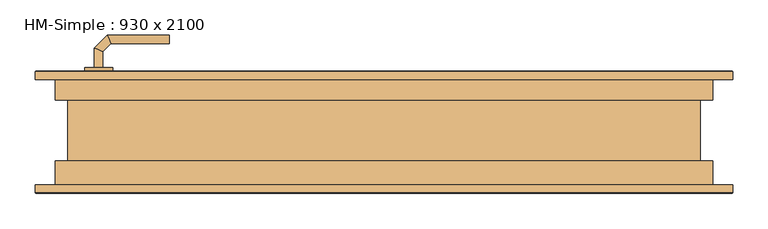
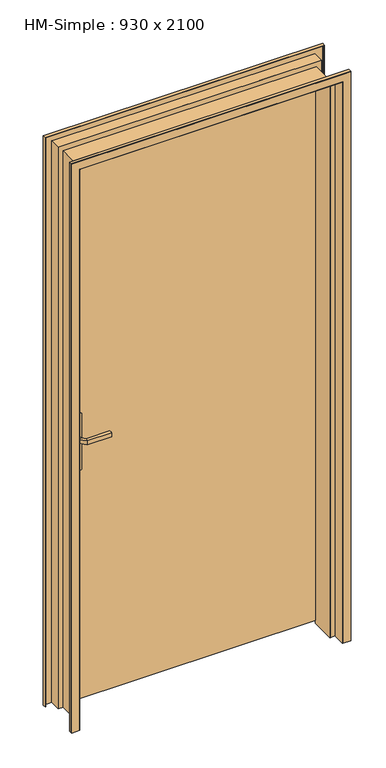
"""IFC4 building model written with IfcOpenShell, lengths in millimetres: door geometry, HM-Simple : 930 x 2100."""

from ifc_helpers import new_model, si_unit, point, frame, frame_2d, origin, place, context, project, spatial, polyline, circle_curve, ellipse_curve, trimmed, segment, composite_curve, outline, extrude, faceted_brep, source, transform, mapped, element, save
from ifc_brep_helpers import plane_surface, cylinder_surface, advanced_brep


def hm_simple_930_x_2100_480bb5af(model_context):
    return source(origin(), model_context, "Body", "SolidModel", [
        advanced_brep(
        [(-399.0, 42.0, 993.0), (-411.0, 42.0, 993.0), (-411.0, 42.0, 1007.0), (-399.0, 42.0, 1007.0), (-399.0, 19.5147955, 1007.0), (-399.0, 19.5147955, 993.0), (-411.0, 14.5442327, 1007.0), (-411.0, 14.5442327, 993.0), (-387.5147186, 8.0295141, 1007.0), (-387.5147186, 8.0295141, 993.0), (-392.4852814, -3.9704859, 1007.0), (-392.4852814, -3.9704859, 993.0), (-304.9542163, 8.0295141, 993.0), (-304.9542163, 8.0295141, 1007.0), (-304.9542163, -3.9704859, 1007.0), (-304.9542163, -3.9704859, 993.0)],
        [
            (0, 1, circle_curve(frame((-405.0, 42.0, 1013.0457722), z_axis=(0.0, 1.0, 0.0), x_axis=(-1.0, 0.0, 0.0)), 20.9244589)),
            (1, 2),
            (2, 3, circle_curve(frame((-405.0, 42.0, 986.9542278), z_axis=(0.0, 1.0, 0.0), x_axis=(-1.0, 0.0, 0.0)), 20.9244589)),
            (3, 0),
            (3, 4),
            (4, 5),
            (5, 0),
            (2, 6),
            (6, 4, ellipse_curve(frame((-405.0, 17.0295141, 986.9542278), z_axis=(-0.3826834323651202, 0.9238795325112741, 0.0), x_axis=(0.9238795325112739, 0.3826834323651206, 0.0)), 22.6484711, 20.9244589)),
            (1, 7),
            (7, 6),
            (5, 7, ellipse_curve(frame((-405.0, 17.0295141, 1013.0457722), z_axis=(-0.3826834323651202, 0.9238795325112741, 0.0), x_axis=(0.9238795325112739, 0.3826834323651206, 0.0)), 22.6484711, 20.9244589)),
            (4, 8),
            (8, 9),
            (9, 5),
            (6, 10),
            (10, 8, ellipse_curve(frame((-390.0, 2.0295141, 986.9542278), z_axis=(-0.9238795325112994, 0.3826834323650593, 0.0), x_axis=(0.3826834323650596, 0.9238795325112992, 0.0)), 22.6484711, 20.9244589)),
            (7, 11),
            (11, 10),
            (9, 11, ellipse_curve(frame((-390.0, 2.0295141, 1013.0457722), z_axis=(-0.9238795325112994, 0.3826834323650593, 0.0), x_axis=(0.3826834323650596, 0.9238795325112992, 0.0)), 22.6484711, 20.9244589)),
            (12, 13),
            (13, 14, circle_curve(frame((-304.9542163, 2.0295141, 986.9542278), z_axis=(1.0, 0.0, 0.0), x_axis=(0.0, -1.0, 0.0)), 20.9244589)),
            (14, 15),
            (15, 12, circle_curve(frame((-304.9542163, 2.0295141, 1013.0457722), z_axis=(1.0, 0.0, 0.0), x_axis=(0.0, -1.0, 0.0)), 20.9244589)),
            (8, 13),
            (12, 9),
            (10, 14),
            (11, 15),
        ],
        [
            plane_surface(frame((-414.2195445, 42.0, 1000.0), z_axis=(0.0, 1.0, 0.0), x_axis=(0.0, 0.0, 1.0))),
            plane_surface(frame((-399.0, 42.0, 993.0), z_axis=(1.0, 0.0, 0.0), x_axis=(0.0, -1.0, 0.0))),
            cylinder_surface(frame((-405.0, 42.0, 986.9542278), z_axis=(0.0, 1.0, 0.0), x_axis=(-1.0, 0.0, 0.0)), 20.9244589),
            plane_surface(frame((-411.0, 42.0, 1007.0), z_axis=(-1.0, 0.0, 0.0), x_axis=(0.0, -1.0, 0.0))),
            cylinder_surface(frame((-405.0, 42.0, 1013.0457722), z_axis=(0.0, 1.0, 0.0), x_axis=(-1.0, 0.0, 0.0)), 20.9244589),
            plane_surface(frame((-399.0, 19.5147955, 993.0), z_axis=(0.7071067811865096, 0.7071067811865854, 0.0), x_axis=(0.7071067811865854, -0.7071067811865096, 0.0))),
            cylinder_surface(frame((-405.0, 17.0295141, 986.9542278), z_axis=(-0.7071067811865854, 0.7071067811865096, 0.0), x_axis=(-0.7071067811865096, -0.7071067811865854, 0.0)), 20.9244589),
            plane_surface(frame((-411.0, 14.5442327, 1007.0), z_axis=(-0.7071067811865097, -0.7071067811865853, 0.0), x_axis=(0.7071067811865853, -0.7071067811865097, 0.0))),
            cylinder_surface(frame((-405.0, 17.0295141, 1013.0457722), z_axis=(-0.7071067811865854, 0.7071067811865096, 0.0), x_axis=(-0.7071067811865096, -0.7071067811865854, 0.0)), 20.9244589),
            plane_surface(frame((-304.9542163, 2.0295141, 990.7804555), z_axis=(1.0, 0.0, 0.0), x_axis=(0.0, -1.0, 0.0))),
            plane_surface(frame((-387.5147186, 8.0295141, 993.0), z_axis=(0.0, 1.0, 0.0), x_axis=(1.0, 0.0, 0.0))),
            cylinder_surface(frame((-390.0, 2.0295141, 986.9542278), z_axis=(-1.0, 0.0, 0.0), x_axis=(0.0, -1.0, 0.0)), 20.9244589),
            plane_surface(frame((-392.4852814, -3.9704859, 1007.0), z_axis=(0.0, -1.0, 0.0), x_axis=(1.0, 0.0, 0.0))),
            cylinder_surface(frame((-390.0, 2.0295141, 1013.0457722), z_axis=(-1.0, 0.0, 0.0), x_axis=(0.0, -1.0, 0.0)), 20.9244589),
        ],
        [
            (0, [[1, 2, 3, 4]]),
            (1, [[5, 6, 7, -4]]),
            (2, [[8, 9, -5, -3]]),
            (3, [[10, 11, -8, -2]]),
            (4, [[-7, 12, -10, -1]]),
            (5, [[13, 14, 15, -6]]),
            (6, [[16, 17, -13, -9]]),
            (7, [[18, 19, -16, -11]]),
            (8, [[-15, 20, -18, -12]]),
            (9, [[21, 22, 23, 24]]),
            (10, [[25, -21, 26, -14]]),
            (11, [[27, -22, -25, -17]]),
            (12, [[28, -23, -27, -19]]),
            (13, [[-26, -24, -28, -20]]),
        ],
    ),
        advanced_brep(
        [(-411.0, 92.0, 1007.0), (-411.0, 92.0, 993.0), (-399.0, 92.0, 993.0), (-399.0, 92.0, 1007.0), (-399.0, 114.680388, 1007.0), (-411.0, 119.6509507, 1007.0), (-399.0, 114.680388, 993.0), (-411.0, 119.6509507, 993.0), (-387.6522273, 126.0281607, 1007.0), (-392.62279, 138.0281607, 1007.0), (-387.6522273, 126.0281607, 993.0), (-392.62279, 138.0281607, 993.0), (-304.9813594, 138.0281607, 1007.0), (-304.9813594, 126.0281607, 1007.0), (-304.9813594, 126.0281607, 993.0), (-304.9813594, 138.0281607, 993.0)],
        [
            (0, 1),
            (1, 2, circle_curve(frame((-405.0, 92.0, 1013.0457722), z_axis=(0.0, -1.0, 0.0), x_axis=(1.0, 0.0, 0.0)), 20.9244589)),
            (2, 3),
            (3, 0, circle_curve(frame((-405.0, 92.0, 986.9542278), z_axis=(0.0, -1.0, 0.0), x_axis=(1.0, 0.0, 0.0)), 20.9244589)),
            (3, 4),
            (4, 5, ellipse_curve(frame((-405.0, 117.1656693, 986.9542278), z_axis=(-0.3826834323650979, -0.9238795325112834, 0.0), x_axis=(0.9238795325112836, -0.3826834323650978, 0.0)), 22.6484711, 20.9244589)),
            (5, 0),
            (2, 6),
            (6, 4),
            (1, 7),
            (7, 6, ellipse_curve(frame((-405.0, 117.1656693, 1013.0457722), z_axis=(-0.3826834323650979, -0.9238795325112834, 0.0), x_axis=(0.9238795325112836, -0.3826834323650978, 0.0)), 22.6484711, 20.9244589)),
            (5, 7),
            (4, 8),
            (8, 9, ellipse_curve(frame((-390.1375086, 132.0281607, 986.9542278), z_axis=(-0.92387953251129, -0.3826834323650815, 0.0), x_axis=(0.3826834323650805, -0.9238795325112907, 0.0)), 22.6484711, 20.9244589)),
            (9, 5),
            (6, 10),
            (10, 8),
            (7, 11),
            (11, 10, ellipse_curve(frame((-390.1375086, 132.0281607, 1013.0457722), z_axis=(-0.92387953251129, -0.3826834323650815, 0.0), x_axis=(0.3826834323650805, -0.9238795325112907, 0.0)), 22.6484711, 20.9244589)),
            (9, 11),
            (12, 13, circle_curve(frame((-304.9813594, 132.0281607, 986.9542278), z_axis=(1.0, 0.0, 0.0), x_axis=(0.0, -1.0, 0.0)), 20.9244589)),
            (13, 14),
            (14, 15, circle_curve(frame((-304.9813594, 132.0281607, 1013.0457722), z_axis=(1.0, 0.0, 0.0), x_axis=(0.0, -1.0, 0.0)), 20.9244589)),
            (15, 12),
            (8, 13),
            (12, 9),
            (10, 14),
            (11, 15),
        ],
        [
            plane_surface(frame((-414.2195445, 92.0, 1000.0), z_axis=(0.0, -1.0, 0.0), x_axis=(0.0, 0.0, -1.0))),
            cylinder_surface(frame((-405.0, 92.0, 986.9542278), z_axis=(0.0, -1.0, 0.0), x_axis=(1.0, 0.0, 0.0)), 20.9244589),
            plane_surface(frame((-399.0, 92.0, 1007.0), z_axis=(1.0, 0.0, 0.0), x_axis=(0.0, 1.0, 0.0))),
            cylinder_surface(frame((-405.0, 92.0, 1013.0457722), z_axis=(0.0, -1.0, 0.0), x_axis=(1.0, 0.0, 0.0)), 20.9244589),
            plane_surface(frame((-411.0, 92.0, 993.0), z_axis=(-1.0, 0.0, 0.0), x_axis=(0.0, 1.0, 0.0))),
            cylinder_surface(frame((-405.0, 117.1656693, 986.9542278), z_axis=(-0.7071067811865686, -0.7071067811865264, 0.0), x_axis=(0.7071067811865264, -0.7071067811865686, 0.0)), 20.9244589),
            plane_surface(frame((-399.0, 114.680388, 1007.0), z_axis=(0.7071067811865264, -0.7071067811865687, 0.0), x_axis=(0.7071067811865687, 0.7071067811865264, 0.0))),
            cylinder_surface(frame((-405.0, 117.1656693, 1013.0457722), z_axis=(-0.7071067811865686, -0.7071067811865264, 0.0), x_axis=(0.7071067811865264, -0.7071067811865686, 0.0)), 20.9244589),
            plane_surface(frame((-411.0, 119.6509507, 993.0), z_axis=(-0.7071067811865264, 0.7071067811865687, 0.0), x_axis=(0.7071067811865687, 0.7071067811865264, 0.0))),
            plane_surface(frame((-304.9813594, 132.0281607, 990.7804555), z_axis=(1.0, 0.0, 0.0), x_axis=(0.0, -1.0, 0.0))),
            cylinder_surface(frame((-390.1375086, 132.0281607, 986.9542278), z_axis=(-1.0, 0.0, 0.0), x_axis=(0.0, -1.0, 0.0)), 20.9244589),
            plane_surface(frame((-387.6522273, 126.0281607, 1007.0), z_axis=(0.0, -1.0, 0.0), x_axis=(1.0, 0.0, 0.0))),
            cylinder_surface(frame((-390.1375086, 132.0281607, 1013.0457722), z_axis=(-1.0, 0.0, 0.0), x_axis=(0.0, -1.0, 0.0)), 20.9244589),
            plane_surface(frame((-392.62279, 138.0281607, 993.0), z_axis=(0.0, 1.0, 0.0), x_axis=(1.0, 0.0, 0.0))),
        ],
        [
            (0, [[1, 2, 3, 4]]),
            (1, [[5, 6, 7, -4]]),
            (2, [[8, 9, -5, -3]]),
            (3, [[10, 11, -8, -2]]),
            (4, [[-7, 12, -10, -1]]),
            (5, [[13, 14, 15, -6]]),
            (6, [[16, 17, -13, -9]]),
            (7, [[18, 19, -16, -11]]),
            (8, [[-15, 20, -18, -12]]),
            (9, [[21, 22, 23, 24]]),
            (10, [[25, -21, 26, -14]]),
            (11, [[27, -22, -25, -17]]),
            (12, [[28, -23, -27, -19]]),
            (13, [[-26, -24, -28, -20]]),
        ],
    ),
        extrude(outline(composite_curve([segment(trimmed(circle_curve(frame_2d((1045.3589838, -405.0)), 40.0), [point((1080.0, -385.0))], [point((1080.0, -425.0))], False, "CARTESIAN"), True, "CONTINUOUS"), segment(polyline([(1080.0, -425.0), (870.0, -425.0)]), True, "CONTINUOUS"), segment(trimmed(circle_curve(frame_2d((904.6410162, -405.0)), 40.0), [point((870.0, -425.0))], [point((870.0, -385.0))], False, "CARTESIAN"), True, "CONTINUOUS"), segment(polyline([(870.0, -385.0), (1080.0, -385.0)]), True, "CONTINUOUS")], self_intersect=False)), frame((0.0, 42.0, 0.0), z_axis=(0.0, 1.0, 0.0), x_axis=(0.0, 0.0, 1.0)), (0.0, 0.0, 1.0), 5.0),
        extrude(outline(composite_curve([segment(trimmed(circle_curve(frame_2d((904.6410162, -405.0)), 40.0), [point((870.0, -425.0))], [point((870.0, -385.0))], False, "CARTESIAN"), True, "CONTINUOUS"), segment(polyline([(870.0, -385.0), (1080.0, -385.0)]), True, "CONTINUOUS"), segment(trimmed(circle_curve(frame_2d((1045.3589838, -405.0)), 40.0), [point((1080.0, -385.0))], [point((1080.0, -425.0))], False, "CARTESIAN"), True, "CONTINUOUS"), segment(polyline([(1080.0, -425.0), (870.0, -425.0)]), True, "CONTINUOUS")], self_intersect=False)), frame((0.0, 87.0, 0.0), z_axis=(0.0, 1.0, 0.0), x_axis=(0.0, 0.0, 1.0)), (0.0, 0.0, 1.0), 5.0),
        extrude(outline(polyline([(-465.0, 47.0), (-465.0, 87.0), (465.0, 87.0), (465.0, 47.0), (-465.0, 47.0)])), frame((0.0, 0.0, 10.0), z_axis=(0.0, 0.0, 1.0), x_axis=(1.0, 0.0, 0.0)), (0.0, 0.0, 1.0), 2090.0),
        faceted_brep([(495.0, -75.0, 0.0), (495.0, -86.2, 0.0), (494.2, -87.0, 0.0), (465.8, -87.0, 0.0), (465.0, -86.2, 0.0), (465.0, -42.0, 0.0), (447.8, -42.0, 0.0), (447.0, -41.2, 0.0), (447.0, 46.2, 0.0), (447.8, 47.0, 0.0), (465.0, 47.0, 0.0), (465.0, 86.2, 0.0), (465.8, 87.0, 0.0), (494.2, 87.0, 0.0), (495.0, 86.2, 0.0), (495.0, 75.0, 0.0), (493.5, 75.0, 0.0), (493.5, 85.5, 0.0), (466.5, 85.5, 0.0), (466.5, 45.5, 0.0), (448.5, 45.5, 0.0), (448.5, -40.5, 0.0), (466.5, -40.5, 0.0), (466.5, -85.5, 0.0), (493.5, -85.5, 0.0), (493.5, -75.0, 0.0), (493.5, -75.0, 2128.5), (-493.5, -75.0, 2128.5), (-493.5, -75.0, 0.0), (-495.0, -75.0, 0.0), (-495.0, -75.0, 2130.0), (495.0, -75.0, 2130.0), (493.5, -85.5, 2128.5), (466.5, -85.5, 2101.5), (-466.5, -85.5, 2101.5), (-466.5, -85.5, 0.0), (-493.5, -85.5, 0.0), (-493.5, -85.5, 2128.5), (466.5, -40.5, 2101.5), (448.5, -40.5, 2083.5), (-448.5, -40.5, 2083.5), (-448.5, -40.5, 0.0), (-466.5, -40.5, 0.0), (-466.5, -40.5, 2101.5), (448.5, 45.5, 2083.5), (466.5, 45.5, 2101.5), (-466.5, 45.5, 2101.5), (-466.5, 45.5, 0.0), (-448.5, 45.5, 0.0), (-448.5, 45.5, 2083.5), (466.5, 85.5, 2101.5), (493.5, 85.5, 2128.5), (-493.5, 85.5, 2128.5), (-493.5, 85.5, 0.0), (-466.5, 85.5, 0.0), (-466.5, 85.5, 2101.5), (493.5, 75.0, 2128.5), (495.0, 75.0, 2130.0), (-495.0, 75.0, 2130.0), (-495.0, 75.0, 0.0), (-493.5, 75.0, 0.0), (-493.5, 75.0, 2128.5), (495.0, 86.2, 2130.0), (494.2, 87.0, 2129.2), (465.8, 87.0, 2100.8), (-465.8, 87.0, 2100.8), (-465.8, 87.0, 0.0), (-494.2, 87.0, 0.0), (-494.2, 87.0, 2129.2), (465.0, 86.2, 2100.0), (465.0, 47.0, 2100.0), (447.8, 47.0, 2082.8), (-447.8, 47.0, 2082.8), (-447.8, 47.0, 0.0), (-465.0, 47.0, 0.0), (-465.0, 47.0, 2100.0), (447.0, 46.2, 2082.0), (447.0, -41.2, 2082.0), (447.8, -42.0, 2082.8), (465.0, -42.0, 2100.0), (-465.0, -42.0, 2100.0), (-465.0, -42.0, 0.0), (-447.8, -42.0, 0.0), (-447.8, -42.0, 2082.8), (465.0, -86.2, 2100.0), (465.8, -87.0, 2100.8), (494.2, -87.0, 2129.2), (-494.2, -87.0, 2129.2), (-494.2, -87.0, 0.0), (-465.8, -87.0, 0.0), (-465.8, -87.0, 2100.8), (495.0, -86.2, 2130.0), (-495.0, -86.2, 0.0), (-495.0, -86.2, 2130.0), (-495.0, 86.2, 0.0), (-465.0, 86.2, 0.0), (-447.0, 46.2, 0.0), (-447.0, -41.2, 0.0), (-465.0, -86.2, 0.0), (-495.0, 86.2, 2130.0), (-465.0, 86.2, 2100.0), (-447.0, 46.2, 2082.0), (-447.0, -41.2, 2082.0), (-465.0, -86.2, 2100.0)], [[[0, 1, 2, 3, 4, 5, 6, 7, 8, 9, 10, 11, 12, 13, 14, 15, 16, 17, 18, 19, 20, 21, 22, 23, 24, 25]], [[25, 26, 27, 28, 29, 30, 31, 0]], [[24, 32, 26, 25]], [[23, 33, 34, 35, 36, 37, 32, 24]], [[22, 38, 33, 23]], [[21, 39, 40, 41, 42, 43, 38, 22]], [[20, 44, 39, 21]], [[19, 45, 46, 47, 48, 49, 44, 20]], [[18, 50, 45, 19]], [[17, 51, 52, 53, 54, 55, 50, 18]], [[16, 56, 51, 17]], [[15, 57, 58, 59, 60, 61, 56, 16]], [[14, 62, 57, 15]], [[13, 63, 62, 14]], [[12, 64, 65, 66, 67, 68, 63, 13]], [[11, 69, 64, 12]], [[10, 70, 69, 11]], [[9, 71, 72, 73, 74, 75, 70, 10]], [[8, 76, 71, 9]], [[7, 77, 76, 8]], [[6, 78, 77, 7]], [[5, 79, 80, 81, 82, 83, 78, 6]], [[4, 84, 79, 5]], [[3, 85, 84, 4]], [[2, 86, 87, 88, 89, 90, 85, 3]], [[1, 91, 86, 2]], [[0, 31, 91, 1]], [[30, 29, 92, 93]], [[29, 28, 36, 35, 42, 41, 48, 47, 54, 53, 60, 59, 94, 67, 66, 95, 74, 73, 96, 97, 82, 81, 98, 89, 88, 92]], [[37, 36, 28, 27]], [[43, 42, 35, 34]], [[49, 48, 41, 40]], [[55, 54, 47, 46]], [[61, 60, 53, 52]], [[99, 94, 59, 58]], [[68, 67, 94, 99]], [[100, 95, 66, 65]], [[75, 74, 95, 100]], [[101, 96, 73, 72]], [[83, 82, 97, 102]], [[103, 98, 81, 80]], [[90, 89, 98, 103]], [[93, 92, 88, 87]], [[102, 97, 96, 101]], [[32, 37, 27, 26]], [[38, 43, 34, 33]], [[44, 49, 40, 39]], [[50, 55, 46, 45]], [[56, 61, 52, 51]], [[62, 99, 58, 57]], [[63, 68, 99, 62]], [[69, 100, 65, 64]], [[70, 75, 100, 69]], [[76, 101, 72, 71]], [[77, 102, 101, 76]], [[78, 83, 102, 77]], [[84, 103, 80, 79]], [[85, 90, 103, 84]], [[91, 93, 87, 86]], [[31, 30, 93, 91]]]),
    ])


if __name__ == "__main__":
    model = new_model("IFC4")
    model_context = context("Model", 3, world=origin())
    ifc_project = project(units=[si_unit("LENGTHUNIT", "METRE", prefix="MILLI")], contexts=[model_context])
    site = spatial("IfcSite", under=ifc_project)
    building = spatial("IfcBuilding", under=site)
    placement = place(None, origin())
    hm_simple_930_x_2100_shape = hm_simple_930_x_2100_480bb5af(model_context)
    element("IfcDoor", 1, ObjectType="HM-Simple : 930 x 2100", at=placement, inside=building, context=model_context, shape_type="MappedRepresentation", body=[
        mapped(hm_simple_930_x_2100_shape, transform((0.0, 0.0, 0.0), x_axis=(1.0, 0.0, 0.0), y_axis=(0.0, 1.0, 0.0), z_axis=(0.0, 0.0, 1.0))),
    ])
    save(model, "model.ifc")
